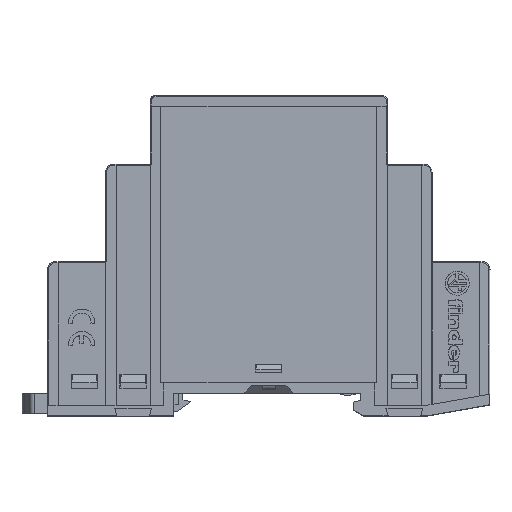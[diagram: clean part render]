
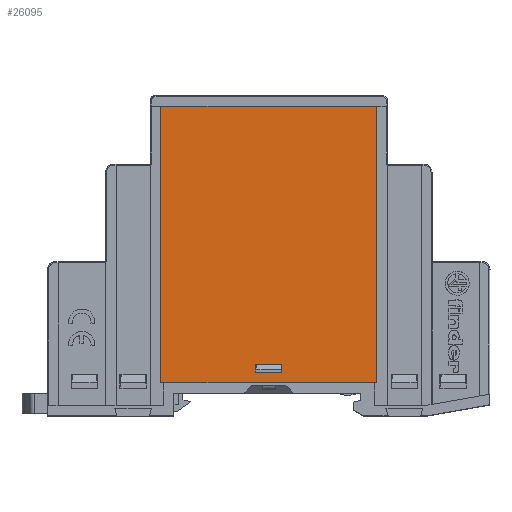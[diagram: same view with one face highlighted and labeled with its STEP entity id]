
A CAD part, top view. The second image highlights one B-rep face of the part: STEP entity #26095.
In plain terms, the highlighted planar face has unit normal (0, 0, 1).
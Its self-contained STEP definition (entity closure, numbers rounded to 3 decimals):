
#1409=ORIENTED_EDGE('',*,*,#8058,.T.);
#1410=ORIENTED_EDGE('',*,*,#8059,.T.);
#1411=ORIENTED_EDGE('',*,*,#8060,.T.);
#1412=ORIENTED_EDGE('',*,*,#8061,.T.);
#1413=ORIENTED_EDGE('',*,*,#7839,.F.);
#1414=ORIENTED_EDGE('',*,*,#8062,.T.);
#1415=ORIENTED_EDGE('',*,*,#8063,.T.);
#1416=ORIENTED_EDGE('',*,*,#8048,.F.);
#7839=EDGE_CURVE('',#12070,#12071,#15133,.T.);
#8048=EDGE_CURVE('',#12071,#12226,#15321,.T.);
#8058=EDGE_CURVE('',#12232,#12233,#15329,.T.);
#8059=EDGE_CURVE('',#12233,#12234,#15330,.T.);
#8060=EDGE_CURVE('',#12234,#12235,#15331,.T.);
#8061=EDGE_CURVE('',#12235,#12232,#15332,.T.);
#8062=EDGE_CURVE('',#12070,#12236,#15333,.T.);
#8063=EDGE_CURVE('',#12236,#12226,#15334,.T.);
#12070=VERTEX_POINT('',#40964);
#12071=VERTEX_POINT('',#40966);
#12226=VERTEX_POINT('',#41453);
#12232=VERTEX_POINT('',#41470);
#12233=VERTEX_POINT('',#41471);
#12234=VERTEX_POINT('',#41473);
#12235=VERTEX_POINT('',#41475);
#12236=VERTEX_POINT('',#41478);
#15133=LINE('',#40965,#18855);
#15321=LINE('',#41452,#19043);
#15329=LINE('',#41469,#19051);
#15330=LINE('',#41472,#19052);
#15331=LINE('',#41474,#19053);
#15332=LINE('',#41476,#19054);
#15333=LINE('',#41477,#19055);
#15334=LINE('',#41479,#19056);
#18855=VECTOR('',#34165,1000.);
#19043=VECTOR('',#34447,1000.);
#19051=VECTOR('',#34461,1000.);
#19052=VECTOR('',#34462,1000.);
#19053=VECTOR('',#34463,1000.);
#19054=VECTOR('',#34464,1000.);
#19055=VECTOR('',#34465,1000.);
#19056=VECTOR('',#34466,1000.);
#22495=EDGE_LOOP('',(#1409,#1410,#1411,#1412));
#22496=EDGE_LOOP('',(#1413,#1414,#1415,#1416));
#23800=FACE_BOUND('',#22495,.T.);
#23801=FACE_BOUND('',#22496,.T.);
#25066=PLANE('',#32584);
#26095=ADVANCED_FACE('',(#23800,#23801),#25066,.T.);
#32584=AXIS2_PLACEMENT_3D('',#41468,#34459,#34460);
#34165=DIRECTION('',(0.,1.,0.));
#34447=DIRECTION('',(1.,0.,0.));
#34459=DIRECTION('',(0.,0.,1.));
#34460=DIRECTION('',(1.,0.,0.));
#34461=DIRECTION('',(0.,-1.,0.));
#34462=DIRECTION('',(-1.,0.,0.));
#34463=DIRECTION('',(0.,1.,0.));
#34464=DIRECTION('',(1.,0.,0.));
#34465=DIRECTION('',(1.,0.,0.));
#34466=DIRECTION('',(0.,1.,0.));
#40964=CARTESIAN_POINT('',(-20.5,-47.,0.));
#40965=CARTESIAN_POINT('',(-20.5,-20.75,0.));
#40966=CARTESIAN_POINT('',(-20.5,5.5,0.));
#41452=CARTESIAN_POINT('',(0.,5.5,0.));
#41453=CARTESIAN_POINT('',(20.5,5.5,0.));
#41468=CARTESIAN_POINT('',(-20.501,-47.001,0.));
#41469=CARTESIAN_POINT('',(2.5,-44.25,0.));
#41470=CARTESIAN_POINT('',(2.5,-43.5,0.));
#41471=CARTESIAN_POINT('',(2.5,-45.,0.));
#41472=CARTESIAN_POINT('',(0.,-45.,0.));
#41473=CARTESIAN_POINT('',(-2.5,-45.,0.));
#41474=CARTESIAN_POINT('',(-2.5,-44.25,0.));
#41475=CARTESIAN_POINT('',(-2.5,-43.5,0.));
#41476=CARTESIAN_POINT('',(0.,-43.5,0.));
#41477=CARTESIAN_POINT('',(0.,-47.,0.));
#41478=CARTESIAN_POINT('',(20.5,-47.,0.));
#41479=CARTESIAN_POINT('',(20.5,-20.75,0.));
